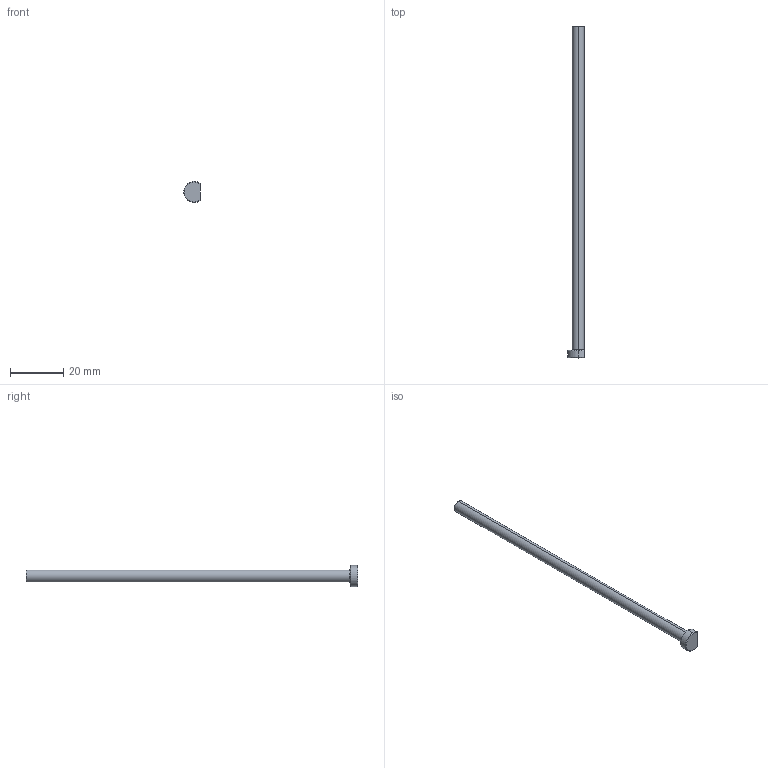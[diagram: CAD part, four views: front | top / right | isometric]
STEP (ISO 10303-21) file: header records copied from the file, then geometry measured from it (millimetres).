
FILE_DESCRIPTION (( 'STEP AP203' ), '1' );
FILE_NAME ('EPD045L125-K.step', '2022-04-08T19:55:20', ( 'Microsoft Corporation' ), ( 'MS' ), 'SwSTEP 2.0', 'SolidWorks 2019', '' );
FILE_SCHEMA (( 'CONFIG_CONTROL_DESIGN' ));
Length unit declared in the file: millimetre
Products named in the file (1): EPD045L125-K
Bounding box: 6.25 x 125 x 8 mm (x, y, z)
Volume: 2066.2 mm3; surface area: 1875.6 mm2
Topology: 1 solids, 1 shells, 18 faces, 41 edges, 25 vertices
Faces by surface type: cone 6, cylinder 5, plane 4, torus 3
Entity records: 598 total; most frequent: CARTESIAN_POINT 107, DIRECTION 95, ORIENTED_EDGE 82, EDGE_CURVE 41, AXIS2_PLACEMENT_3D 41, VERTEX_POINT 25, CIRCLE 22, ADVANCED_FACE 18
